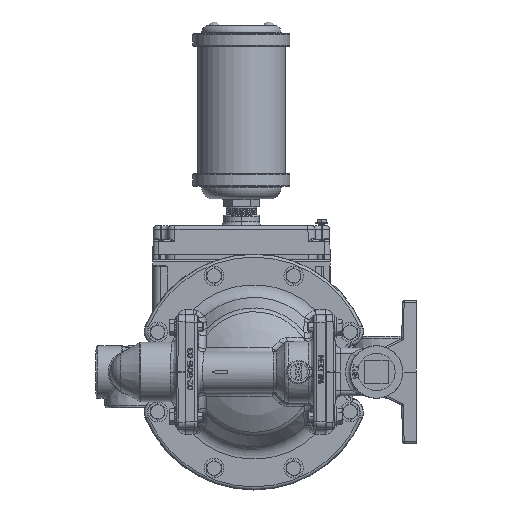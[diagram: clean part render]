
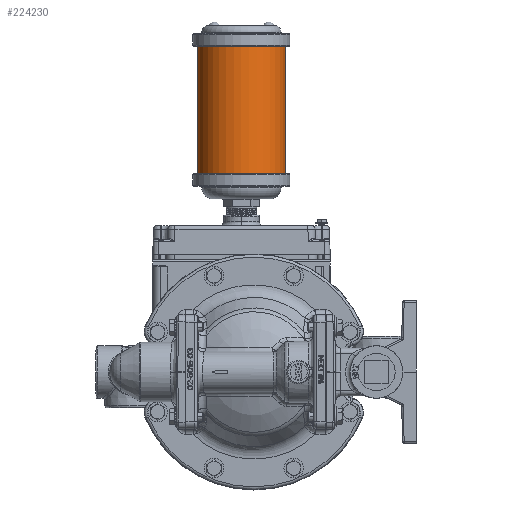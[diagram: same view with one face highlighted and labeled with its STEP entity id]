
A CAD part, left-side view. The second image highlights one B-rep face of the part: STEP entity #224230.
In plain terms, the highlighted cylindrical face has radius 39.243 mm (diameter 78.486 mm), a partial arc.
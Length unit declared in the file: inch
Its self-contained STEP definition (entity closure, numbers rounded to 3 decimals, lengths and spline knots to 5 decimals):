
#80902=CARTESIAN_POINT('',(0.,0.435,6.951));
#80903=DIRECTION('',(0.,0.,-1.));
#80904=DIRECTION('',(0.,-1.,0.));
#80905=AXIS2_PLACEMENT_3D('',#80902,#80903,#80904);
#80922=CARTESIAN_POINT('',(0.,0.435,11.43));
#80923=DIRECTION('',(0.,0.,1.));
#80924=DIRECTION('',(0.,1.,0.));
#80925=AXIS2_PLACEMENT_3D('',#80922,#80923,#80924);
#80942=DIRECTION('',(0.,0.,-1.));
#80943=VECTOR('',#80942,4.479);
#80944=CARTESIAN_POINT('',(0.,1.98,11.43));
#80945=LINE('',#80944,#80943);
#80946=DIRECTION('',(0.,0.,1.));
#80947=VECTOR('',#80946,4.479);
#80948=CARTESIAN_POINT('',(0.,-1.11,6.951));
#80949=LINE('',#80948,#80947);
#93835=CARTESIAN_POINT('',(0.,-1.11,6.951));
#93836=CARTESIAN_POINT('',(0.,1.98,6.951));
#93837=VERTEX_POINT('',#93835);
#93838=VERTEX_POINT('',#93836);
#93839=CARTESIAN_POINT('',(0.,-1.11,11.43));
#93840=VERTEX_POINT('',#93839);
#97876=CARTESIAN_POINT('',(0.,1.98,11.43));
#97877=VERTEX_POINT('',#97876);
#224219=CARTESIAN_POINT('',(0.,0.435,12.455));
#224220=DIRECTION('',(0.,0.,-1.));
#224221=DIRECTION('',(0.,-1.,0.));
#224222=AXIS2_PLACEMENT_3D('',#224219,#224220,#224221);
#224223=CYLINDRICAL_SURFACE('',#224222,1.545);
#224224=ORIENTED_EDGE('',*,*,#224182,.T.);
#224225=ORIENTED_EDGE('',*,*,#224194,.F.);
#224226=ORIENTED_EDGE('',*,*,#224213,.T.);
#224227=ORIENTED_EDGE('',*,*,#224197,.F.);
#224228=EDGE_LOOP('',(#224224,#224225,#224226,#224227));
#224229=FACE_OUTER_BOUND('',#224228,.F.);
#224230=ADVANCED_FACE('',(#224229),#224223,.T.);
#80906=CIRCLE('',#80905,1.545);
#80926=CIRCLE('',#80925,1.545);
#224182=EDGE_CURVE('',#93837,#93838,#80906,.T.);
#224194=EDGE_CURVE('',#97877,#93838,#80945,.T.);
#224197=EDGE_CURVE('',#93837,#93840,#80949,.T.);
#224213=EDGE_CURVE('',#97877,#93840,#80926,.T.);
